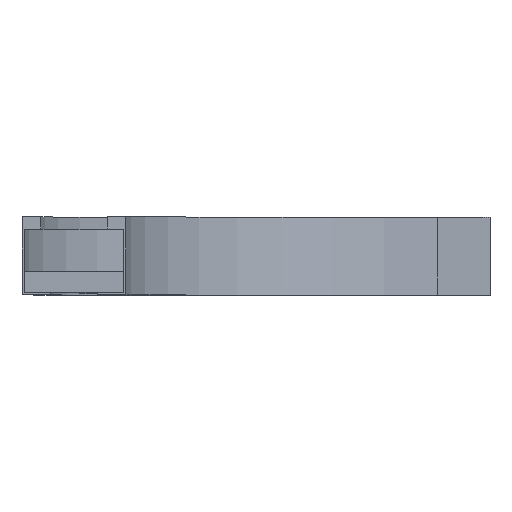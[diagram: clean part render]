
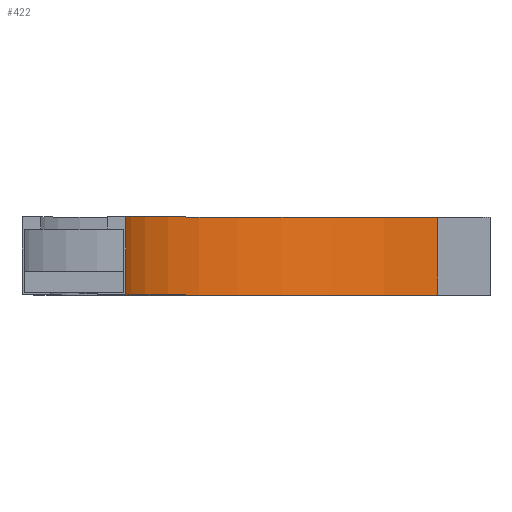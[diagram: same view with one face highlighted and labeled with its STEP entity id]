
A CAD part, top view. The second image highlights one B-rep face of the part: STEP entity #422.
In plain terms, the highlighted cylindrical face has radius 300 mm (diameter 600 mm), a partial arc.
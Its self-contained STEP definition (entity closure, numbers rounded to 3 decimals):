
#67 = CARTESIAN_POINT ( 'NONE',  ( 300., 75., -50. ) ) ;
#104 = DIRECTION ( 'NONE',  ( 0., 1., 0. ) ) ;
#136 = CYLINDRICAL_SURFACE ( 'NONE', #838, 300. ) ;
#265 = EDGE_CURVE ( 'NONE', #737, #762, #1213, .T. ) ;
#274 = CARTESIAN_POINT ( 'NONE',  ( 300., 0., -50. ) ) ;
#368 = DIRECTION ( 'NONE',  ( 0., 1., 0. ) ) ;
#382 = AXIS2_PLACEMENT_3D ( 'NONE', #67, #1378, #921 ) ;
#422 = ADVANCED_FACE ( 'NONE', ( #1178 ), #136, .F. ) ;
#424 = DIRECTION ( 'NONE',  ( 0., 0., -1. ) ) ;
#531 = DIRECTION ( 'NONE',  ( -1., 0., 0. ) ) ;
#537 = EDGE_CURVE ( 'NONE', #544, #762, #1638, .T. ) ;
#544 = VERTEX_POINT ( 'NONE', #1359 ) ;
#575 = ORIENTED_EDGE ( 'NONE', *, *, #1585, .F. ) ;
#594 = CIRCLE ( 'NONE', #1665, 300. ) ;
#628 = VECTOR ( 'NONE', #104, 1000. ) ;
#701 = CARTESIAN_POINT ( 'NONE',  ( 300., 0., -350. ) ) ;
#706 = EDGE_CURVE ( 'NONE', #1522, #737, #594, .T. ) ;
#737 = VERTEX_POINT ( 'NONE', #701 ) ;
#762 = VERTEX_POINT ( 'NONE', #1836 ) ;
#793 = ORIENTED_EDGE ( 'NONE', *, *, #537, .F. ) ;
#834 = EDGE_LOOP ( 'NONE', ( #793, #575, #1484, #1725 ) ) ;
#838 = AXIS2_PLACEMENT_3D ( 'NONE', #274, #1441, #424 ) ;
#921 = DIRECTION ( 'NONE',  ( -1., 0., 0. ) ) ;
#939 = DIRECTION ( 'NONE',  ( 0., -1., 0. ) ) ;
#1178 = FACE_OUTER_BOUND ( 'NONE', #834, .T. ) ;
#1213 = LINE ( 'NONE', #1241, #1713 ) ;
#1241 = CARTESIAN_POINT ( 'NONE',  ( 300., 0., -350. ) ) ;
#1243 = CARTESIAN_POINT ( 'NONE',  ( 0., 0., -50. ) ) ;
#1359 = CARTESIAN_POINT ( 'NONE',  ( 0., 75., -50. ) ) ;
#1378 = DIRECTION ( 'NONE',  ( 0., -1., 0. ) ) ;
#1441 = DIRECTION ( 'NONE',  ( 0., -1., 0. ) ) ;
#1484 = ORIENTED_EDGE ( 'NONE', *, *, #706, .T. ) ;
#1522 = VERTEX_POINT ( 'NONE', #1243 ) ;
#1585 = EDGE_CURVE ( 'NONE', #1522, #544, #1833, .T. ) ;
#1638 = CIRCLE ( 'NONE', #382, 300. ) ;
#1665 = AXIS2_PLACEMENT_3D ( 'NONE', #1820, #939, #531 ) ;
#1698 = CARTESIAN_POINT ( 'NONE',  ( 0., 0., -50. ) ) ;
#1713 = VECTOR ( 'NONE', #368, 1000. ) ;
#1725 = ORIENTED_EDGE ( 'NONE', *, *, #265, .T. ) ;
#1820 = CARTESIAN_POINT ( 'NONE',  ( 300., 0., -50. ) ) ;
#1833 = LINE ( 'NONE', #1698, #628 ) ;
#1836 = CARTESIAN_POINT ( 'NONE',  ( 300., 75., -350. ) ) ;
